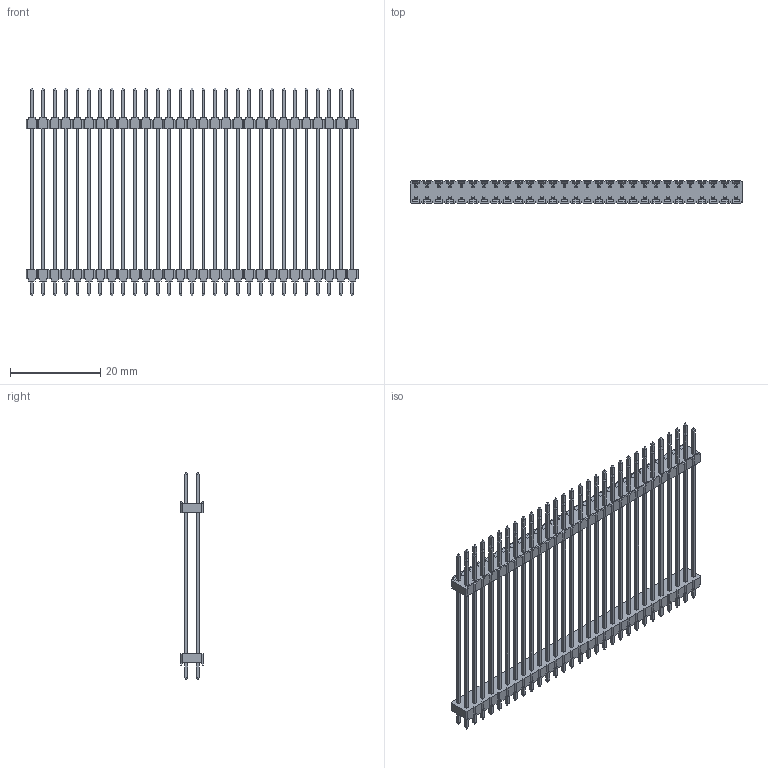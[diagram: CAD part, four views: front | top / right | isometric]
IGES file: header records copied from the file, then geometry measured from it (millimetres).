
Global section: file name: N:\GOLF_VI_2_54mm_UGII\9614XX-X04XX04-XX (TS-2185)\961458-8041704-XX.igs; native system: NX V3.0; preprocessor: UGS NX IGES V4.0; date: 20070618.115217; units: millimetre
Bounding box: 73.66 x 5 x 46.1 mm (x, y, z)
Surface area: 8389.2 mm2 (no closed solid volume)
Topology: 0 solids, 0 shells, 2216 faces, 11649 edges, 11649 vertices
Faces by surface type: bspline 2216
